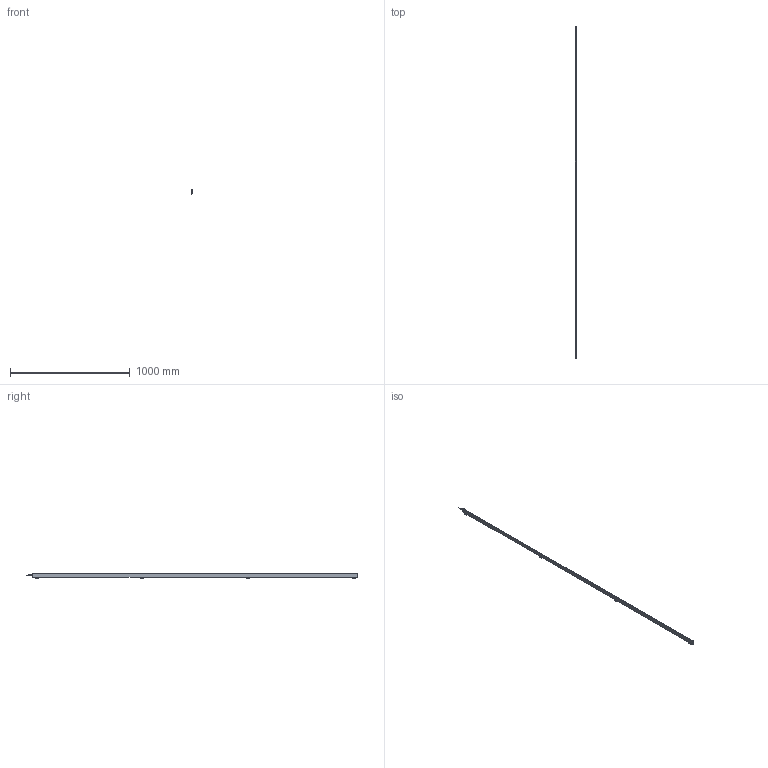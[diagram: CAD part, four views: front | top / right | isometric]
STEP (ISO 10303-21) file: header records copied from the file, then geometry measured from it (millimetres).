
FILE_DESCRIPTION (( 'STEP AP214' ), '1' );
FILE_NAME ('ILG-N-K2-2720mm.STEP', '2017-07-10T14:17:04', ( '' ), ( '' ), 'SwSTEP 2.0', 'SolidWorks 2016', '' );
FILE_SCHEMA (( 'AUTOMOTIVE_DESIGN' ));
Length unit declared in the file: millimetre
Products named in the file (1): ILG-N-K2-2720mm
Bounding box: 10.2 x 2773.5 x 42.41 mm (x, y, z)
Surface area: 453915.9 mm2 (no closed solid volume)
Topology: 0 solids, 17 shells, 822 faces, 2121 edges, 1329 vertices
Faces by surface type: plane 379, cylinder 305, cone 90, bspline 32, torus 16
Entity records: 36121 total; most frequent: CARTESIAN_POINT 7158, ORIENTED_EDGE 4195, DIRECTION 4057, EDGE_CURVE 2105, AXIS2_PLACEMENT_3D 1476, VERTEX_POINT 1329, LINE 1105, VECTOR 1105
